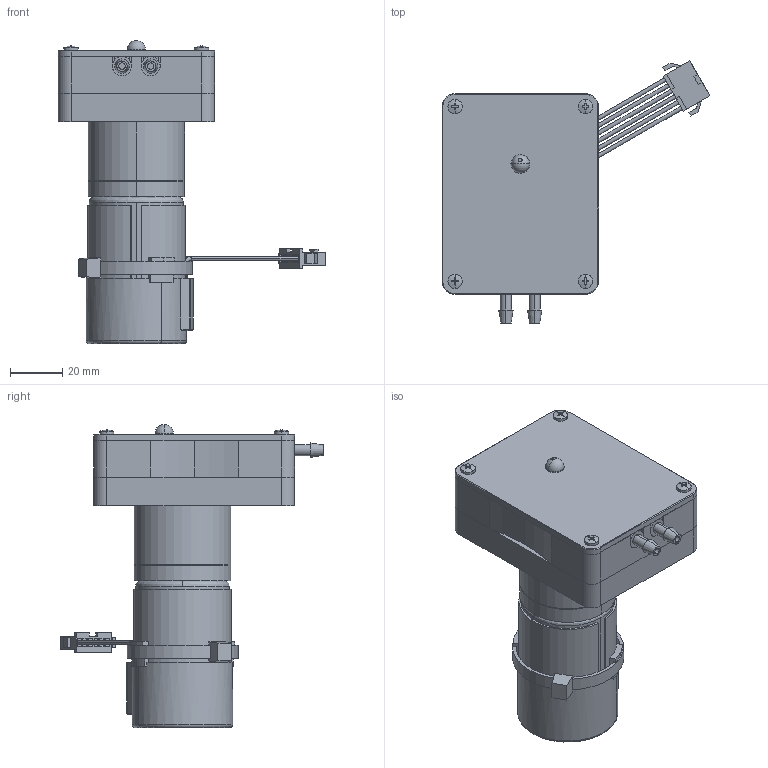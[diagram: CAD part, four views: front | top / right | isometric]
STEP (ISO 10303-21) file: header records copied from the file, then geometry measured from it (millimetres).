
FILE_DESCRIPTION (( 'STEP AP214' ), '1' );
FILE_NAME ('forWEB_rp-h2xx-dc24ve.STEP', '2022-07-06T04:52:36', ( '' ), ( '' ), 'SwSTEP 2.0', 'SolidWorks 2022', '' );
FILE_SCHEMA (( 'AUTOMOTIVE_DESIGN' ));
Length unit declared in the file: millimetre
Products named in the file (14): JOINER_MCS40; WIRE CLAMPER; forWEB_BASE_2; SMP-06-BC WIRE; エンコーダリード線; MOTOR COVER; forWEB_PUMP CASE_2; TP-3640B,C,E-HM-4（減速比：36～100）S; M26x10_Pタイト_CSPBDS2B-ST-TP2_6-10; TP-3640F-HM-100; forWEB_rp-h2xx-dc24ve; forWEB_ROTOR; SMP-06V-BC; COVER_2
Assembly tree (22 placements, depth 4):
  forWEB_rp-h2xx-dc24ve
    forWEB_BASE_2
    TP-3640F-HM-100
      TP-3640B,C,E-HM-4（減速比：36～100）S
      MOTOR COVER
      WIRE CLAMPER
      SMP-06-BC WIRE
        SMP-06V-BC
        エンコーダリード線  x6
    forWEB_PUMP CASE_2
    forWEB_ROTOR
    COVER_2
    M26x10_Pタイト_CSPBDS2B-ST-TP2_6-10  x4
    JOINER_MCS40  x2
Bounding box: 102.71 x 100.64 x 116.2 mm (x, y, z)
Volume: 208804.7 mm3; surface area: 64035.8 mm2
Topology: 20 solids, 22 shells, 679 faces, 1592 edges, 1027 vertices
Faces by surface type: plane 330, cylinder 248, cone 48, torus 39, sphere 12, bspline 2
Entity records: 16213 total; most frequent: DIRECTION 2895, CARTESIAN_POINT 2754, ORIENTED_EDGE 2504, EDGE_CURVE 1252, AXIS2_PLACEMENT_3D 1086, VERTEX_POINT 813, LINE 723, VECTOR 723
